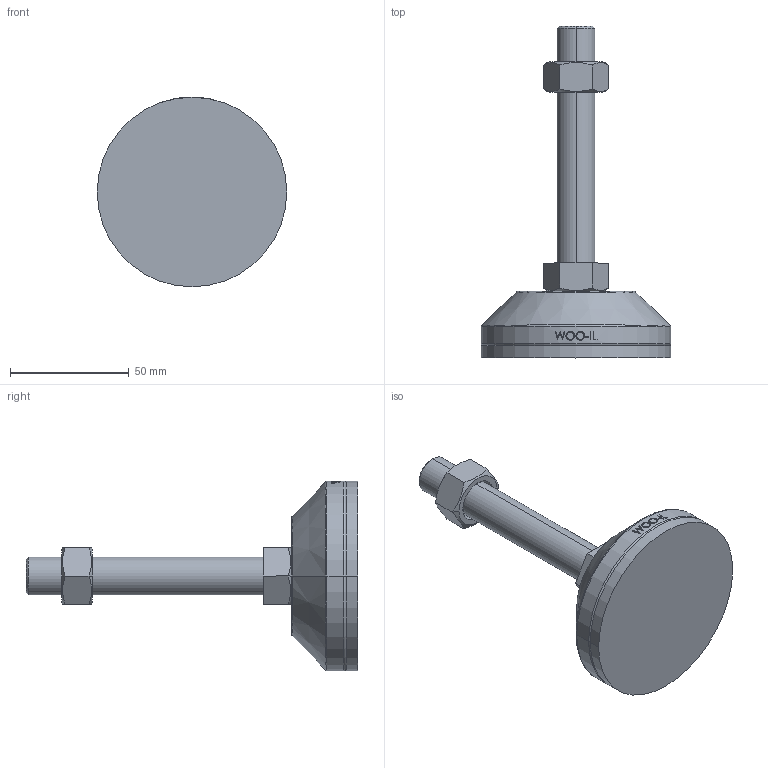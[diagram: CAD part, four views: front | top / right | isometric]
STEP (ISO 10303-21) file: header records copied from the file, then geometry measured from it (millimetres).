
FILE_DESCRIPTION (( 'STEP AP214' ), '1' );
FILE_NAME ('NHNR80-M16-100.step', '2021-01-25T06:21:27', ( '' ), ( '' ), 'SwSTEP 2.0', 'SolidWorks 2019', '' );
FILE_SCHEMA (( 'AUTOMOTIVE_DESIGN' ));
Length unit declared in the file: millimetre
Products named in the file (2): NHNR80-M16-100
Bounding box: 80 x 140 x 80 mm (x, y, z)
Volume: 145849.2 mm3; surface area: 34004.3 mm2
Topology: 4 solids, 4 shells, 105 faces, 239 edges, 152 vertices
Faces by surface type: plane 49, cylinder 18, bspline 16, cone 14, torus 8
Entity records: 4363 total; most frequent: CARTESIAN_POINT 2046, ORIENTED_EDGE 478, DIRECTION 429, EDGE_CURVE 239, AXIS2_PLACEMENT_3D 165, VERTEX_POINT 152, EDGE_LOOP 117, ADVANCED_FACE 105
